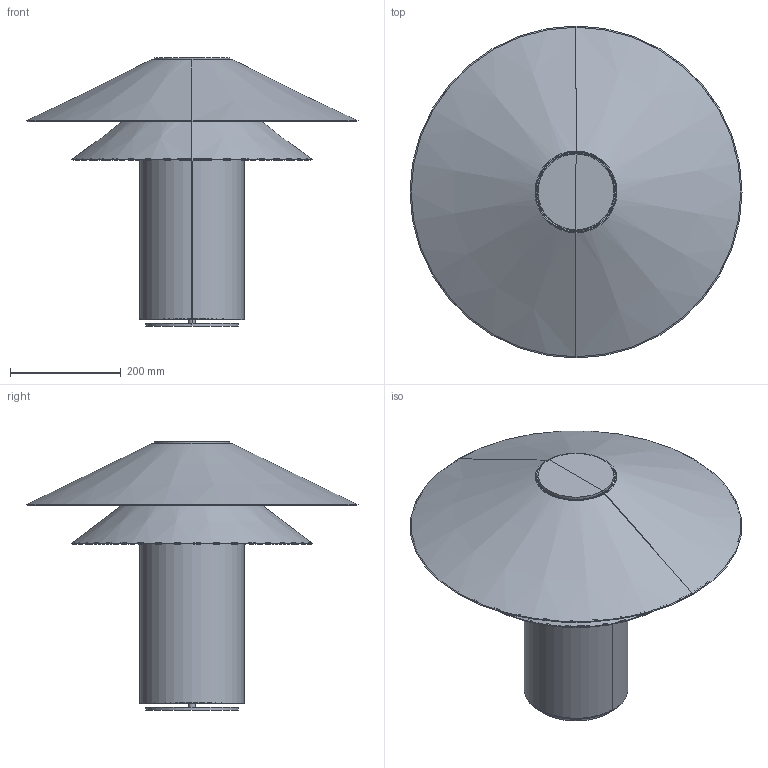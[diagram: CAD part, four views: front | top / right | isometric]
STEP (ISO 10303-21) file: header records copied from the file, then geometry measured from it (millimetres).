
FILE_DESCRIPTION(/* description */ (''),/* implementation_level */ '2;1');
FILE_NAME(/* name */ '20069.step',/* time_stamp */ '2024-05-16T10:33:51+02:00',/* author */ ('RenataManzini'),/* organization */ (''),/* preprocessor_version */ 'ST-DEVELOPER v20',/* originating_system */ 'AutoCAD Mechanical',/* authorisation */ '');
FILE_SCHEMA (('AUTOMOTIVE_DESIGN { 1 0 10303 214 3 1 1 }'));
Length unit declared in the file: millimetre
Products named in the file (2): Product; Shan_pieza - Lamp Holder-633706-_3D_
Assembly tree (1 placements, depth 2):
  Product
    Shan_pieza - Lamp Holder-633706-_3D_
Bounding box: 600 x 600 x 484.51 mm (x, y, z)
Volume: 988443.4 mm3; surface area: 1411073.9 mm2
Topology: 30 solids, 30 shells, 212 faces, 396 edges, 229 vertices
Faces by surface type: cylinder 88, plane 68, torus 40, cone 8, bspline 8
Entity records: 13556 total; most frequent: CARTESIAN_POINT 9383, DIRECTION 859, ORIENTED_EDGE 786, EDGE_CURVE 393, AXIS2_PLACEMENT_3D 368, EDGE_LOOP 227, VERTEX_POINT 224, FACE_OUTER_BOUND 212
